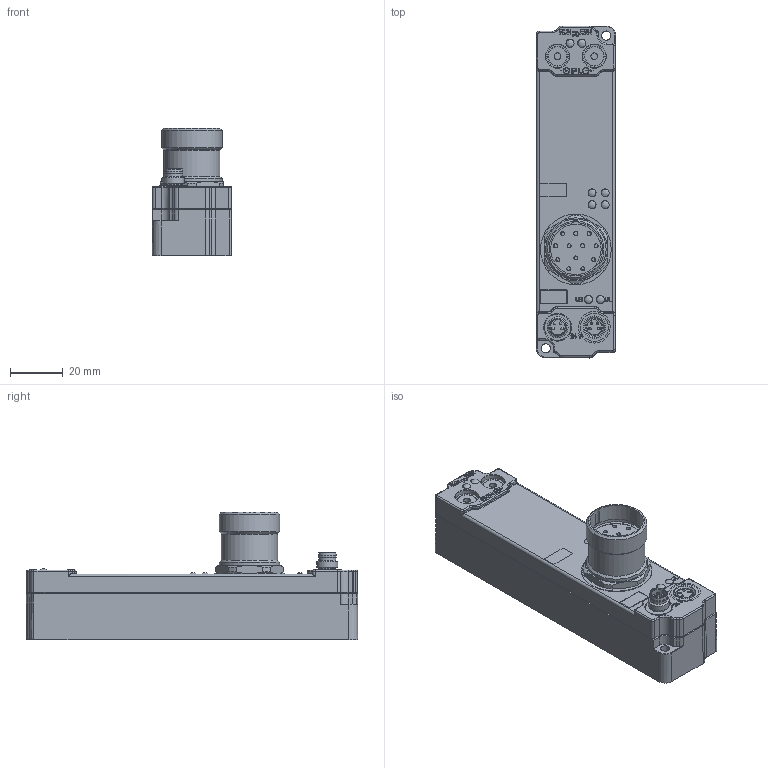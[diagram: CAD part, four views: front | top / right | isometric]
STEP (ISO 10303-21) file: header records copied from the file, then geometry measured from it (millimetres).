
FILE_DESCRIPTION((''),'2;1');
FILE_NAME('C:\TurckZip\SNNE-10S-M23.stp','2008-03-06T11:27:26',('IKOROL'),(''),'Autodesk Inventor 2008','Autodesk Inventor 2008','');
FILE_SCHEMA(('CONFIG_CONTROL_DESIGN'));
Length unit declared in the file: millimetre
Products named in the file (1): Part2
Bounding box: 30.3 x 126.31 x 48.55 mm (x, y, z)
Volume: 84330.9 mm3; surface area: 30950.9 mm2
Topology: 5 solids, 5 shells, 796 faces, 2002 edges, 1281 vertices
Faces by surface type: plane 365, cylinder 225, bspline 102, cone 67, torus 25, sphere 12
Full cylindrical faces by diameter (mm): 1 x8, 1.4 x4, 1.524 x12, 1.6 x4, 2.6 x2, 2.8 x8, 3 x4, 3.05 x12, 3.5 x2, 5.7 x3, 5.8 x1, 6.5 x2, 6.8 x1, 6.899 x1, 6.95 x1, 7.2 x2, 7.5 x2, 8 x2, 8.6 x2, 8.7 x2, 9 x4, 10 x2, 10.2 x1, 10.6 x1, 12 x1, 19.2 x1, 21.357 x1, 21.4 x1, 23 x3, 26.9 x1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
Entity records: 25728 total; most frequent: CARTESIAN_POINT 6812, DIRECTION 3601, ORIENTED_EDGE 3574, EDGE_CURVE 1787, AXIS2_PLACEMENT_3D 1300, VERTEX_POINT 1230, EDGE_LOOP 1087, VECTOR 1001
